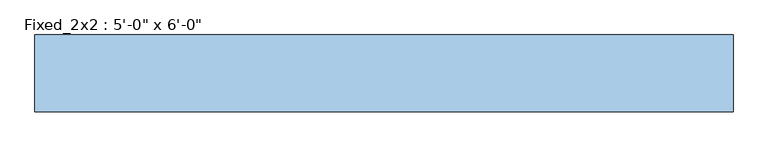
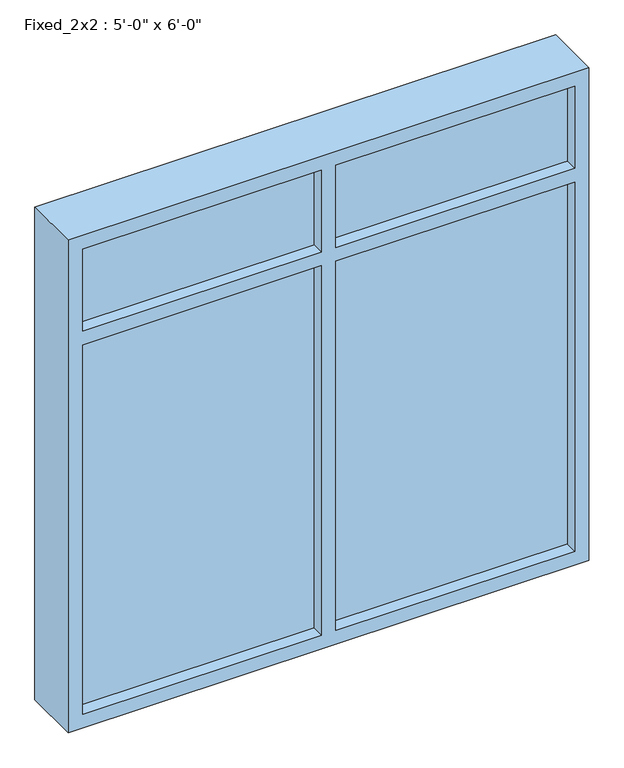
"""IFC4 building model written with IfcOpenShell, lengths in millimetres: window geometry."""

import ifcopenshell
import ifcopenshell.guid

model = None  # the IFC model being written
_history = None  # IfcOwnerHistory: only IFC2X3 demands one
_inside = {}  # id of a spatial element -> (the spatial element, [elements in it])
_under = {}  # id of a project, library or spatial element -> (it, [spatial elements below it])
_declared = {}  # id of a project -> (the project, [libraries it declares])
_typed = {}  # id of a type object -> (the type object, [elements of that type])
_made_of = {}  # id of a material, layer set ... -> (it, [elements and type objects made of it])


def new_model(schema):
    """Start an empty IFC model of exactly this schema.

    Asked for "IFC4X3", IfcOpenShell would pick the latest addendum, in which some entities
    have other attributes; the version numbers below select the first issue.
    IFC2X3 requires an IfcOwnerHistory on every rooted entity: one is made here for all.
    """
    global model, _history
    if schema == "IFC4X3":
        model = ifcopenshell.file(schema_version=(4, 3, 0, 0))
    else:
        model = ifcopenshell.file(schema=schema)
    _inside.clear()
    _under.clear()
    _declared.clear()
    _typed.clear()
    _made_of.clear()
    _history = None
    if model.schema == "IFC2X3":
        org = make("IfcOrganization", Name="unknown")
        user = make(
            "IfcPersonAndOrganization",
            ThePerson=make("IfcPerson", FamilyName="unknown"),
            TheOrganization=org,
        )
        app = make(
            "IfcApplication",
            ApplicationDeveloper=org,
            Version="unknown",
            ApplicationFullName="unknown",
            ApplicationIdentifier="unknown",
        )
        _history = make(
            "IfcOwnerHistory",
            OwningUser=user,
            OwningApplication=app,
            ChangeAction="ADDED",
            CreationDate=0,
        )
    return model


def make(cls, **values):
    """One entity of the class cls with the attributes given. An attribute that is None is left unset."""
    return model.create_entity(
        cls, **{name: value for name, value in values.items() if value is not None}
    )


def rooted(cls, **values):
    """An entity with a GlobalId (a new one), such as an element, a storey or a relation."""
    return make(cls, GlobalId=ifcopenshell.guid.new(), OwnerHistory=_history, **values)


def si_unit(unit_type, name, prefix=None):
    """IfcSIUnit, for example si_unit("LENGTHUNIT", "METRE", prefix="MILLI")."""
    return make("IfcSIUnit", UnitType=unit_type, Prefix=prefix, Name=name)


def assignment(units):
    """IfcUnitAssignment: the units of a project."""
    return None if units is None else make("IfcUnitAssignment", Units=units)


def point(xyz):
    """IfcCartesianPoint."""
    return None if xyz is None else make("IfcCartesianPoint", Coordinates=xyz)


def direction(xyz):
    """IfcDirection."""
    return None if xyz is None else make("IfcDirection", DirectionRatios=xyz)


def frame(location, z_axis=None, x_axis=None):
    """IfcAxis2Placement3D, a coordinate frame: its origin and axes. An axis left out is left unset."""
    return make(
        "IfcAxis2Placement3D",
        Location=point(location),
        Axis=direction(z_axis),
        RefDirection=direction(x_axis),
    )


def origin():
    """The frame at (0, 0, 0) with its axes left unset."""
    return frame((0.0, 0.0, 0.0))


def place(relative_to, where):
    """IfcLocalPlacement: puts the frame where relative to a parent placement (None: the world)."""
    return make(
        "IfcLocalPlacement", PlacementRelTo=relative_to, RelativePlacement=where
    )


def context(
    kind, dimensions, precision=None, world=None, true_north=None, identifier=None
):
    """IfcGeometricRepresentationContext, for example the 3D "Model" context."""
    return make(
        "IfcGeometricRepresentationContext",
        ContextIdentifier=identifier,
        ContextType=kind,
        CoordinateSpaceDimension=dimensions,
        Precision=precision,
        WorldCoordinateSystem=world,
        TrueNorth=true_north,
    )


def project(units=None, contexts=None):
    """IfcProject with its units and contexts."""
    return rooted(
        "IfcProject",
        Name="project",
        RepresentationContexts=contexts,
        UnitsInContext=assignment(units),
    )


def spatial(cls, under=None, at=None, **own):
    """A site, building, storey or space (cls), placed at a placement, below another one or the project."""
    s = rooted(cls, ObjectPlacement=at, **own)
    if under is not None:
        _under.setdefault(under.id(), (under, []))[1].append(s)
    return s


def polyline(points):
    """IfcPolyline through the points."""
    return make("IfcPolyline", Points=[point(p) for p in points])


def outline(outer, holes=None, kind="AREA"):
    """IfcArbitraryClosedProfileDef: a profile drawn as a closed curve; with holes, ...WithVoids."""
    if holes is None:
        return make("IfcArbitraryClosedProfileDef", ProfileType=kind, OuterCurve=outer)
    return make(
        "IfcArbitraryProfileDefWithVoids",
        ProfileType=kind,
        OuterCurve=outer,
        InnerCurves=holes,
    )


def extrude(swept, where, along, depth):
    """IfcExtrudedAreaSolid: the profile swept, set in the frame where, extruded along a direction by depth."""
    return make(
        "IfcExtrudedAreaSolid",
        SweptArea=swept,
        Position=where,
        ExtrudedDirection=direction(along),
        Depth=depth,
    )


def shape(context_of_items, identifier, shape_type, items):
    """IfcShapeRepresentation: the items that make up one representation, for example the "Body"."""
    return make(
        "IfcShapeRepresentation",
        ContextOfItems=context_of_items,
        RepresentationIdentifier=identifier,
        RepresentationType=shape_type,
        Items=items,
    )


def source(mapping_origin, context_of_items, identifier, shape_type, items):
    """IfcRepresentationMap: a shape defined once, which mapped items show again and again."""
    return make(
        "IfcRepresentationMap",
        MappingOrigin=mapping_origin,
        MappedRepresentation=shape(context_of_items, identifier, shape_type, items),
    )


def transform(
    local_origin,
    x_axis=None,
    y_axis=None,
    z_axis=None,
    scale=None,
    scale2=None,
    scale3=None,
    uniform=True,
):
    """IfcCartesianTransformationOperator3D, or its non-uniform kind. x_axis, y_axis, z_axis: its Axis1, 2, 3."""
    if uniform:
        return make(
            "IfcCartesianTransformationOperator3D",
            Axis1=direction(x_axis),
            Axis2=direction(y_axis),
            LocalOrigin=point(local_origin),
            Scale=scale,
            Axis3=direction(z_axis),
        )
    return make(
        "IfcCartesianTransformationOperator3DnonUniform",
        Axis1=direction(x_axis),
        Axis2=direction(y_axis),
        LocalOrigin=point(local_origin),
        Scale=scale,
        Axis3=direction(z_axis),
        Scale2=scale2,
        Scale3=scale3,
    )


def mapped(mapping_source, mapping_target):
    """IfcMappedItem: shows the shape of a source again, moved by a transform."""
    return make(
        "IfcMappedItem", MappingSource=mapping_source, MappingTarget=mapping_target
    )


def made_of(thing, what):
    """Note that an element or type object is made of a material, layer set ...; save() writes the relation."""
    if what is not None:
        _made_of.setdefault(what.id(), (what, []))[1].append(thing)
    return thing


def element(
    cls,
    number,
    at=None,
    inside=None,
    cuts=None,
    type_object=None,
    material=None,
    context=None,
    identifier="Body",
    shape_type=None,
    held_by="IfcProductDefinitionShape",
    body=None,
    shapes=None,
    **own,
):
    """One element of the class cls, such as IfcWall. Its Tag is "e" and its number.

    at: its placement. inside: the storey or other place that contains it. cuts: it is an
    opening in that element (IfcRelVoidsElement). A single representation is given by context,
    identifier, shape_type and body (its items); several are given by shapes. held_by: the class
    of the entity that holds the representations. save() writes the other relations.
    """
    e = rooted(cls, Tag="e%d" % number, ObjectPlacement=at, **own)
    if body is not None:
        shapes = [shape(context, identifier, shape_type, body)]
    if shapes is not None:
        e.Representation = make(held_by, Representations=shapes)
    if inside is not None:
        _inside.setdefault(inside.id(), (inside, []))[1].append(e)
    if cuts is not None:
        rooted(
            "IfcRelVoidsElement", RelatingBuildingElement=cuts, RelatedOpeningElement=e
        )
    if type_object is not None:
        _typed.setdefault(type_object.id(), (type_object, []))[1].append(e)
    return made_of(e, material)


def aggregate(whole, parts):
    """IfcRelAggregates: a whole, such as a stair, and the parts it consists of."""
    return rooted("IfcRelAggregates", RelatingObject=whole, RelatedObjects=parts)


def save(model, path):
    """Write the relations noted so far, then the file.

    IfcRelAggregates (storeys below a building ...), IfcRelContainedInSpatialStructure (elements
    in a storey), IfcRelDefinesByType, IfcRelAssociatesMaterial and IfcRelDeclares: one each for
    every whole, place, type object, material and project.
    """
    for whole, parts in _under.values():
        aggregate(whole, parts)
    for where, things in _inside.values():
        rooted(
            "IfcRelContainedInSpatialStructure",
            RelatedElements=things,
            RelatingStructure=where,
        )
    for kind, things in _typed.values():
        rooted("IfcRelDefinesByType", RelatedObjects=things, RelatingType=kind)
    for what, things in _made_of.values():
        rooted("IfcRelAssociatesMaterial", RelatedObjects=things, RelatingMaterial=what)
    for by, libraries in _declared.values():
        rooted("IfcRelDeclares", RelatingContext=by, RelatedDefinitions=libraries)
    model.write(path)


def window_7a97fd41(model_context):
    return source(origin(), model_context, "Body", "SweptSolid", [
        extrude(outline(polyline([(-431.8, -82.9137746), (-431.8, -57.5137746), (406.4, -57.5137746), (406.4, -82.9137746), (-431.8, -82.9137746)])), frame((0.0, 0.0, 956.6367551), z_axis=(0.0, 0.0, 1.0), x_axis=(1.0, 0.0, 0.0)), (0.0, 0.0, 1.0), 1371.6),
        extrude(outline(polyline([(-1320.8, -82.9137746), (-1320.8, -57.5137746), (-482.6, -57.5137746), (-482.6, -82.9137746), (-1320.8, -82.9137746)])), frame((0.0, 0.0, 956.6367551), z_axis=(0.0, 0.0, 1.0), x_axis=(1.0, 0.0, 0.0)), (0.0, 0.0, 1.0), 1371.6),
        extrude(outline(polyline([(-431.8, -82.9137746), (-431.8, -57.5137746), (406.4, -57.5137746), (406.4, -82.9137746), (-431.8, -82.9137746)])), frame((0.0, 0.0, 2379.0367551), z_axis=(0.0, 0.0, 1.0), x_axis=(1.0, 0.0, 0.0)), (0.0, 0.0, 1.0), 304.8),
        extrude(outline(polyline([(-1320.8, -82.9137746), (-1320.8, -57.5137746), (-482.6, -57.5137746), (-482.6, -82.9137746), (-1320.8, -82.9137746)])), frame((0.0, 0.0, 2379.0367551), z_axis=(0.0, 0.0, 1.0), x_axis=(1.0, 0.0, 0.0)), (0.0, 0.0, 1.0), 304.8),
        extrude(outline(polyline([(2734.6367551, -1371.6), (905.8367551, -1371.6), (905.8367551, 457.2), (2734.6367551, 457.2), (2734.6367551, -1371.6)]), holes=[polyline([(2328.2367551, -431.8), (2328.2367551, 406.4), (956.6367551, 406.4), (956.6367551, -431.8), (2328.2367551, -431.8)]), polyline([(2328.2367551, -1320.8), (2328.2367551, -482.6), (956.6367551, -482.6), (956.6367551, -1320.8), (2328.2367551, -1320.8)]), polyline([(2683.8367551, -431.8), (2683.8367551, 406.4), (2379.0367551, 406.4), (2379.0367551, -431.8), (2683.8367551, -431.8)]), polyline([(2683.8367551, -1320.8), (2683.8367551, -482.6), (2379.0367551, -482.6), (2379.0367551, -1320.8), (2683.8367551, -1320.8)])]), frame((0.0, -127.3637746, 0.0), z_axis=(0.0, 1.0, 0.0), x_axis=(0.0, 0.0, 1.0)), (0.0, 0.0, 1.0), 201.6125),
    ])


if __name__ == "__main__":
    model = new_model("IFC4")
    model_context = context("Model", 3, world=origin())
    ifc_project = project(units=[si_unit("LENGTHUNIT", "METRE", prefix="MILLI")], contexts=[model_context])
    site = spatial("IfcSite", under=ifc_project)
    building = spatial("IfcBuilding", under=site)
    placement = place(None, origin())
    window_shape = window_7a97fd41(model_context)
    element("IfcWindow", 1, ObjectType="Fixed_2x2 : 5'-0\" x 6'-0\"", at=placement, inside=building, context=model_context, shape_type="MappedRepresentation", body=[
        mapped(window_shape, transform((0.0, 0.0, 0.0), x_axis=(1.0, 0.0, 0.0), y_axis=(0.0, 1.0, 0.0), z_axis=(0.0, 0.0, 1.0))),
    ])
    save(model, "model.ifc")
